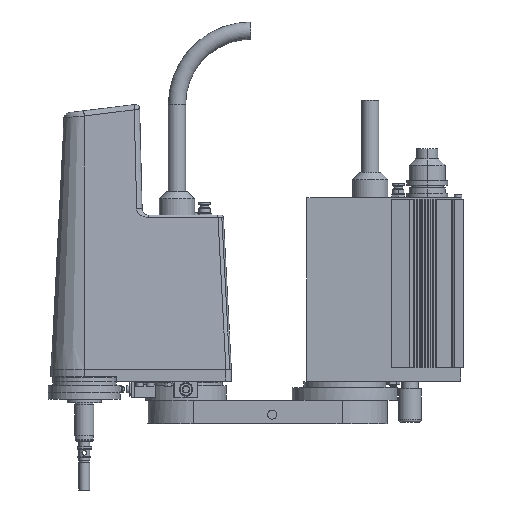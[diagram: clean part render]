
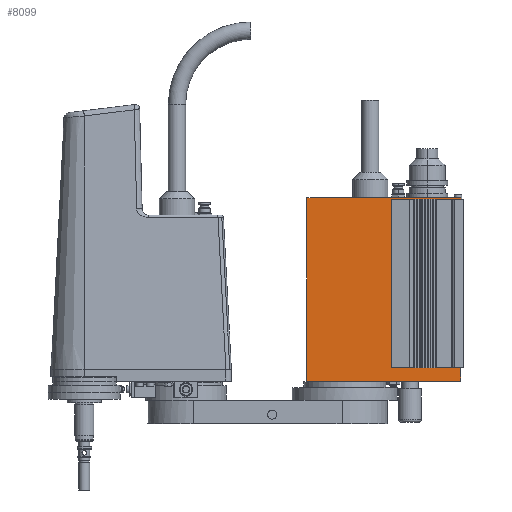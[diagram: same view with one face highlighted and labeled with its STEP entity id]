
A CAD part, front view. The second image highlights one B-rep face of the part: STEP entity #8099.
In plain terms, the highlighted planar face has unit normal (0, -1, 0).
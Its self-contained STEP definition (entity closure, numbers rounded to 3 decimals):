
#6682=CARTESIAN_POINT('POINT19546',(51.,-50.,
   247.5));
#6683=VERTEX_POINT('VERTEX19546',#6682);
#6690=CARTESIAN_POINT('POINT19547',(51.,-50.,
   62.));
#6691=VERTEX_POINT('VERTEX19547',#6690);
#6692=CARTESIAN_POINT('POS30625',(51.,-50.,
   62.));
#6693=DIRECTION('DIR46525',(0.,0.,1.));
#6694=VECTOR('VEC14725',#6693,1.);
#6695=LINE('STRAIGHT14725',#6692,#6694);
#6696=EDGE_CURVE('EDGE30796',#6691,#6683,#6695,.T.);
#6715=CARTESIAN_POINT('POINT19549',(-42.,-50.,249.09));
#6716=VERTEX_POINT('VERTEX19549',#6715);
#6723=CARTESIAN_POINT('POINT19550',(-37.,-50.,249.09));
#6724=VERTEX_POINT('VERTEX19550',#6723);
#6725=CARTESIAN_POINT('POS30629',(-37.,-50.,249.09));
#6726=DIRECTION('DIR46530',(-1.,0.,0.));
#6727=VECTOR('VEC14728',#6726,1.);
#6728=LINE('STRAIGHT14728',#6725,#6727);
#6729=EDGE_CURVE('EDGE30799',#6724,#6716,#6728,.T.);
#6753=CARTESIAN_POINT('POINT19552',(-42.,-50.,47.));
#6754=VERTEX_POINT('VERTEX19552',#6753);
#6763=CARTESIAN_POINT('POS30634',(-42.,-50.,47.));
#6764=DIRECTION('DIR46536',(0.,0.,-1.));
#6765=VECTOR('VEC14732',#6764,1.);
#6766=LINE('STRAIGHT14732',#6763,#6765);
#6767=EDGE_CURVE('EDGE30803',#6716,#6754,#6766,.T.);
#6815=CARTESIAN_POINT('POINT19556',(128.,-50.,247.5));
#6816=VERTEX_POINT('VERTEX19556',#6815);
#6817=CARTESIAN_POINT('POS30641',(92.647,-50.,
   247.5));
#6818=DIRECTION('DIR46545',(-1.,0.,0.));
#6819=VECTOR('VEC14737',#6818,1.);
#6820=LINE('STRAIGHT14737',#6817,#6819);
#6821=EDGE_CURVE('EDGE30808',#6816,#6683,#6820,.T.);
#7074=CARTESIAN_POINT('POINT19562',(128.,-50.,47.));
#7075=VERTEX_POINT('VERTEX19562',#7074);
#7084=CARTESIAN_POINT('POS30654',(128.,-50.,47.));
#7085=DIRECTION('DIR46561',(1.,0.,0.));
#7086=VECTOR('VEC14747',#7085,1.);
#7087=LINE('STRAIGHT14747',#7084,#7086);
#7088=EDGE_CURVE('EDGE30819',#6754,#7075,#7087,.T.);
#7105=CARTESIAN_POINT('POINT19564',(128.,-50.,62.));
#7106=VERTEX_POINT('VERTEX19564',#7105);
#7107=CARTESIAN_POINT('POS30657',(10.147,-50.,
   62.));
#7108=DIRECTION('DIR46565',(1.,0.,0.));
#7109=VECTOR('VEC14749',#7108,1.);
#7110=LINE('STRAIGHT14749',#7107,#7109);
#7111=EDGE_CURVE('EDGE30821',#6691,#7106,#7110,.T.);
#8058=CARTESIAN_POINT('POINT19624',(-37.,-50.,249.1));
#8059=VERTEX_POINT('VERTEX19624',#8058);
#8060=CARTESIAN_POINT('POS30725',(-37.,-50.,62.));
#8061=DIRECTION('DIR46666',(0.,0.,-1.));
#8062=VECTOR('VEC14784',#8061,1.);
#8063=LINE('STRAIGHT14784',#8060,#8062);
#8064=EDGE_CURVE('EDGE30905',#8059,#6724,#8063,.T.);
#8065=ORIENTED_EDGE('COEDGE61735',*,*,#8064,.T.);
#8066=ORIENTED_EDGE('COEDGE61736',*,*,#6729,.T.);
#8067=ORIENTED_EDGE('COEDGE61737',*,*,#6767,.T.);
#8068=ORIENTED_EDGE('COEDGE61738',*,*,#7088,.T.);
#8069=CARTESIAN_POINT('POS30726',(128.,-50.,62.));
#8070=DIRECTION('DIR46667',(0.,0.,-1.));
#8071=VECTOR('VEC14785',#8070,1.);
#8072=LINE('STRAIGHT14785',#8069,#8071);
#8073=EDGE_CURVE('EDGE30906',#7106,#7075,#8072,.T.);
#8074=ORIENTED_EDGE('COEDGE61739',*,*,#8073,.F.);
#8075=ORIENTED_EDGE('COEDGE61740',*,*,#7111,.F.);
#8076=ORIENTED_EDGE('COEDGE61741',*,*,#6696,.T.);
#8077=ORIENTED_EDGE('COEDGE61742',*,*,#6821,.F.);
#8078=CARTESIAN_POINT('POINT19625',(128.,-50.,249.1));
#8079=VERTEX_POINT('VERTEX19625',#8078);
#8080=CARTESIAN_POINT('POS30727',(128.,-50.,247.5));
#8081=DIRECTION('DIR46668',(0.,0.,1.));
#8082=VECTOR('VEC14786',#8081,1.);
#8083=LINE('STRAIGHT14786',#8080,#8082);
#8084=EDGE_CURVE('EDGE30907',#6816,#8079,#8083,.T.);
#8085=ORIENTED_EDGE('COEDGE61743',*,*,#8084,.T.);
#8086=CARTESIAN_POINT('POS30728',(-37.,-50.,249.1));
#8087=DIRECTION('DIR46669',(-1.,0.,0.));
#8088=VECTOR('VEC14787',#8087,1.);
#8089=LINE('STRAIGHT14787',#8086,#8088);
#8090=EDGE_CURVE('EDGE30908',#8079,#8059,#8089,.T.);
#8091=ORIENTED_EDGE('COEDGE61744',*,*,#8090,.T.);
#8092=EDGE_LOOP('NONE',(#8065,#8066,#8067,#8068,#8074,#8075,#8076,#8077,
   #8085,#8091));
#8093=FACE_BOUND('LOOP1',#8092,.T.);
#8094=CARTESIAN_POINT('POS30729',(51.,-50.,
   62.));
#8095=DIRECTION('DIR46670',(0.,-1.,0.));
#8096=DIRECTION('DIR46671',(1.,0.,0.));
#8097=AXIS2_PLACEMENT_3D('AXIS15942',#8094,#8095,#8096);
#8098=PLANE('PLANE5592',#8097);
#8099=ADVANCED_FACE('FACE13271',(#8093),#8098,.T.);
